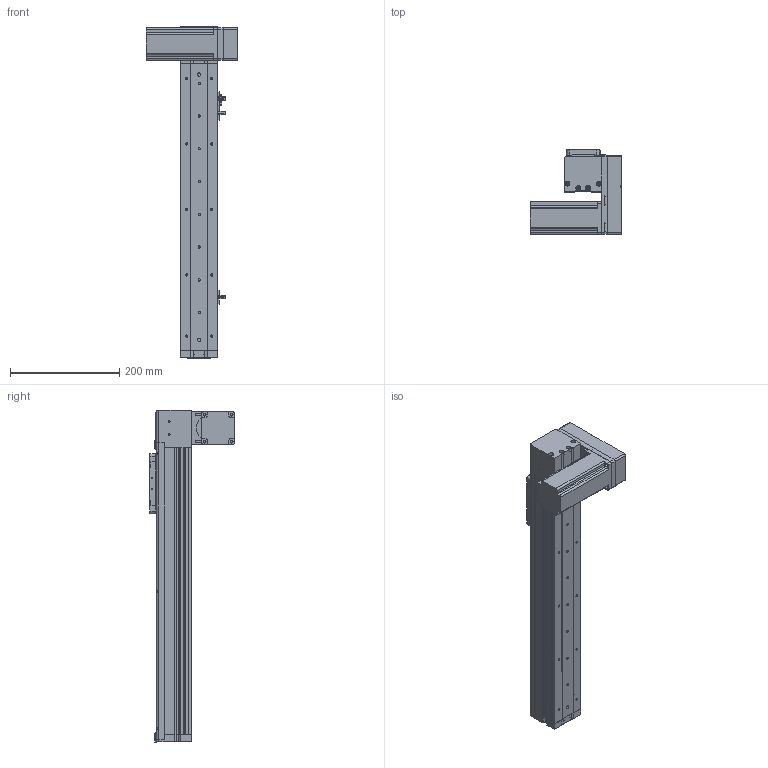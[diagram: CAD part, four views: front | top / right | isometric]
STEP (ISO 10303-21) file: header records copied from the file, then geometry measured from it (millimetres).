
FILE_DESCRIPTION (( 'STEP AP214' ), '1' );
FILE_NAME ('KSD68BS-S350-MLD-CR.STEP', '2019-11-07T05:29:12', ( '微软用户' ), ( '微软中国' ), 'SwSTEP 2.0', 'SolidWorks 2014', '' );
FILE_SCHEMA (( 'AUTOMOTIVE_DESIGN' ));
Length unit declared in the file: millimetre
Products named in the file (14): 68宽单导轨全封闭同步带端板; 68单导轨全封闭同步带电机座左; 68单导轨全封闭同步带安装板; 悵誘欶奻狟殏; 68宽马达安装板连板上折同步带; 感应片68宽全封闭; U倰嫖萇EEㄜSX672; 68遵裔啣揤啣1; 台达ECMA－C20604AS伺服电机（400W); KSD68BS 350行程底板全封闭; KSD68BS-S350-MLD-CR; KSD68BS 350行程盖板全封闭; 68宽单导轨全封闭丝杆传动安装板1防护罩; KSD68BS 350行程侧板全封闭
Assembly tree (17 placements, depth 2):
  KSD68BS-S350-MLD-CR
    KSD68BS 350行程底板全封闭
    台达ECMA－C20604AS伺服电机（400W)
    U倰嫖萇EEㄜSX672  x3
    感应片68宽全封闭
    68宽马达安装板连板上折同步带
    悵誘欶奻狟殏
    68单导轨全封闭同步带安装板
    68单导轨全封闭同步带电机座左
    68宽单导轨全封闭同步带端板
    KSD68BS 350行程侧板全封闭  x2
    68宽单导轨全封闭丝杆传动安装板1防护罩
    68遵裔啣揤啣1  x2
    KSD68BS 350行程盖板全封闭
Bounding box: 167.2 x 155.5 x 608.1 mm (x, y, z)
Volume: 1661209.6 mm3; surface area: 558395 mm2
Topology: 18 solids, 18 shells, 1371 faces, 3853 edges, 2480 vertices
Faces by surface type: plane 621, cylinder 618, cone 132
Entity records: 42399 total; most frequent: CARTESIAN_POINT 7139, DIRECTION 6416, ORIENTED_EDGE 6150, EDGE_CURVE 3075, AXIS2_PLACEMENT_3D 2281, VERTEX_POINT 2018, LINE 1854, VECTOR 1854
